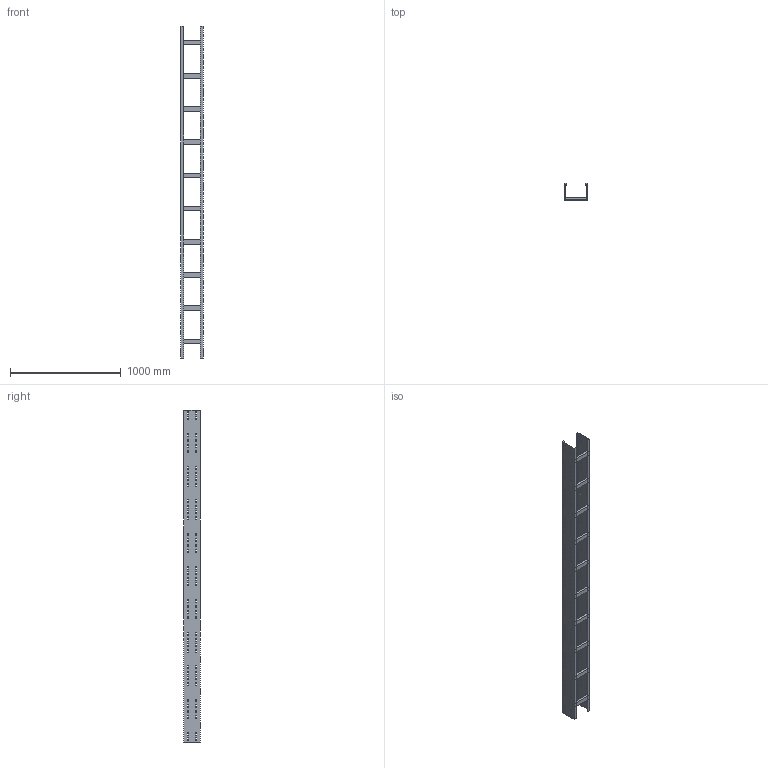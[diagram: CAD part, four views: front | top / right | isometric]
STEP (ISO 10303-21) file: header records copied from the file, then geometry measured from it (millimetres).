
FILE_DESCRIPTION (( 'STEP AP214' ), '1' );
FILE_NAME ('01J3F200.step', '2025-02-21T16:29:06', ( '' ), ( '' ), 'SwSTEP 2.0', 'SolidWorks 2023', '' );
FILE_SCHEMA (( 'AUTOMOTIVE_DESIGN' ));
Length unit declared in the file: millimetre
Products named in the file (3): TRAVERSINO_200; 01J3F200; LONGH.H150
Assembly tree (12 placements, depth 2):
  01J3F200
    LONGH.H150  x2
    TRAVERSINO_200  x10
Bounding box: 200 x 150 x 3000 mm (x, y, z)
Volume: 4767600 mm3; surface area: 2521288 mm2
Topology: 12 solids, 12 shells, 720 faces, 2088 edges, 1392 vertices
Faces by surface type: plane 720
Entity records: 11488 total; most frequent: CARTESIAN_POINT 2011, ORIENTED_EDGE 1992, DIRECTION 1698, VECTOR 996, EDGE_CURVE 996, LINE 996, VERTEX_POINT 664, EDGE_LOOP 496
